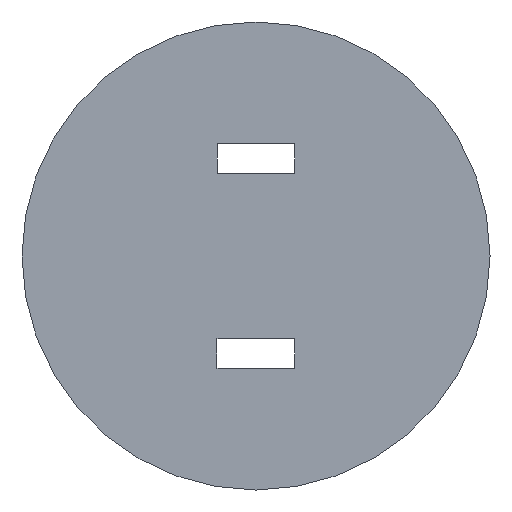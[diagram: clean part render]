
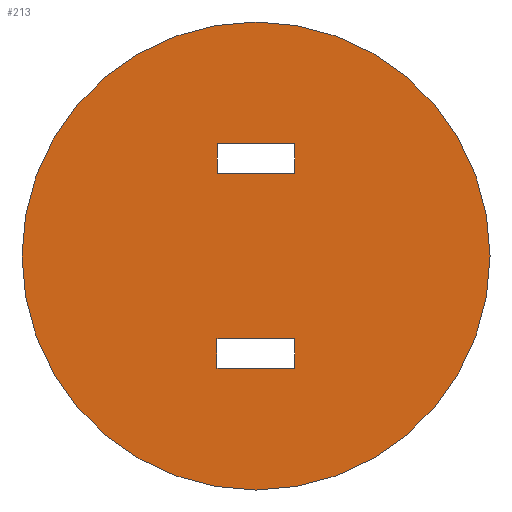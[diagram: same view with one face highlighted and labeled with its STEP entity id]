
A CAD part, front view. The second image highlights one B-rep face of the part: STEP entity #213.
In plain terms, the highlighted planar face has unit normal (0, -1, 0).
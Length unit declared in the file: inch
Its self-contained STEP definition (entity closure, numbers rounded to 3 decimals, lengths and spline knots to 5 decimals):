
#16=FACE_BOUND('',#45,.T.);
#17=FACE_BOUND('',#46,.T.);
#21=CIRCLE('',#245,6.);
#32=FACE_OUTER_BOUND('',#44,.T.);
#44=EDGE_LOOP('',(#176));
#45=EDGE_LOOP('',(#177,#178,#179,#180));
#46=EDGE_LOOP('',(#181,#182,#183,#184));
#50=LINE('',#304,#74);
#54=LINE('',#312,#78);
#57=LINE('',#318,#81);
#60=LINE('',#323,#84);
#62=LINE('',#328,#86);
#66=LINE('',#336,#90);
#69=LINE('',#342,#93);
#72=LINE('',#347,#96);
#74=VECTOR('',#252,0.3937);
#78=VECTOR('',#258,0.3937);
#81=VECTOR('',#263,0.3937);
#84=VECTOR('',#268,0.3937);
#86=VECTOR('',#272,0.3937);
#90=VECTOR('',#278,0.3937);
#93=VECTOR('',#283,0.3937);
#96=VECTOR('',#288,0.3937);
#98=VERTEX_POINT('',#302);
#99=VERTEX_POINT('',#303);
#102=VERTEX_POINT('',#311);
#104=VERTEX_POINT('',#317);
#106=VERTEX_POINT('',#326);
#107=VERTEX_POINT('',#327);
#110=VERTEX_POINT('',#335);
#112=VERTEX_POINT('',#341);
#115=VERTEX_POINT('',#352);
#116=EDGE_CURVE('',#98,#99,#50,.T.);
#120=EDGE_CURVE('',#102,#98,#54,.T.);
#123=EDGE_CURVE('',#104,#102,#57,.T.);
#126=EDGE_CURVE('',#99,#104,#60,.T.);
#128=EDGE_CURVE('',#106,#107,#62,.T.);
#132=EDGE_CURVE('',#110,#106,#66,.T.);
#135=EDGE_CURVE('',#112,#110,#69,.T.);
#138=EDGE_CURVE('',#107,#112,#72,.T.);
#141=EDGE_CURVE('',#115,#115,#21,.T.);
#176=ORIENTED_EDGE('',*,*,#141,.T.);
#177=ORIENTED_EDGE('',*,*,#116,.T.);
#178=ORIENTED_EDGE('',*,*,#126,.T.);
#179=ORIENTED_EDGE('',*,*,#123,.T.);
#180=ORIENTED_EDGE('',*,*,#120,.T.);
#181=ORIENTED_EDGE('',*,*,#128,.T.);
#182=ORIENTED_EDGE('',*,*,#138,.T.);
#183=ORIENTED_EDGE('',*,*,#135,.T.);
#184=ORIENTED_EDGE('',*,*,#132,.T.);
#202=PLANE('',#246);
#213=ADVANCED_FACE('',(#32,#16,#17),#202,.F.);
#245=AXIS2_PLACEMENT_3D('',#353,#294,#295);
#246=AXIS2_PLACEMENT_3D('',#354,#296,#297);
#252=DIRECTION('',(0.,0.,-1.));
#258=DIRECTION('',(1.,0.,0.));
#263=DIRECTION('',(0.,0.,1.));
#268=DIRECTION('',(-1.,0.,0.));
#272=DIRECTION('',(0.,0.,1.));
#278=DIRECTION('',(-1.,0.,0.));
#283=DIRECTION('',(0.,0.,-1.));
#288=DIRECTION('',(1.,0.,0.));
#294=DIRECTION('center_axis',(0.,-1.,0.));
#295=DIRECTION('ref_axis',(1.,0.,0.));
#296=DIRECTION('center_axis',(0.,1.,0.));
#297=DIRECTION('ref_axis',(0.,0.,1.));
#302=CARTESIAN_POINT('',(1.,0.,2.875));
#303=CARTESIAN_POINT('',(1.,0.,2.125));
#304=CARTESIAN_POINT('',(1.,0.,1.4375));
#311=CARTESIAN_POINT('',(-1.,0.,2.875));
#312=CARTESIAN_POINT('',(-0.5,0.,2.875));
#317=CARTESIAN_POINT('',(-1.,0.,2.125));
#318=CARTESIAN_POINT('',(-1.,0.,1.0625));
#323=CARTESIAN_POINT('',(0.5,0.,2.125));
#326=CARTESIAN_POINT('',(-1.,0.,-2.875));
#327=CARTESIAN_POINT('',(-1.,0.,-2.125));
#328=CARTESIAN_POINT('',(-1.,0.,-1.4375));
#335=CARTESIAN_POINT('',(1.,0.,-2.875));
#336=CARTESIAN_POINT('',(0.5,0.,-2.875));
#341=CARTESIAN_POINT('',(1.,0.,-2.125));
#342=CARTESIAN_POINT('',(1.,0.,-1.0625));
#347=CARTESIAN_POINT('',(-0.5,0.,-2.125));
#352=CARTESIAN_POINT('',(-6.,0.,0.));
#353=CARTESIAN_POINT('Origin',(0.,0.,0.));
#354=CARTESIAN_POINT('Origin',(0.,0.,0.));
